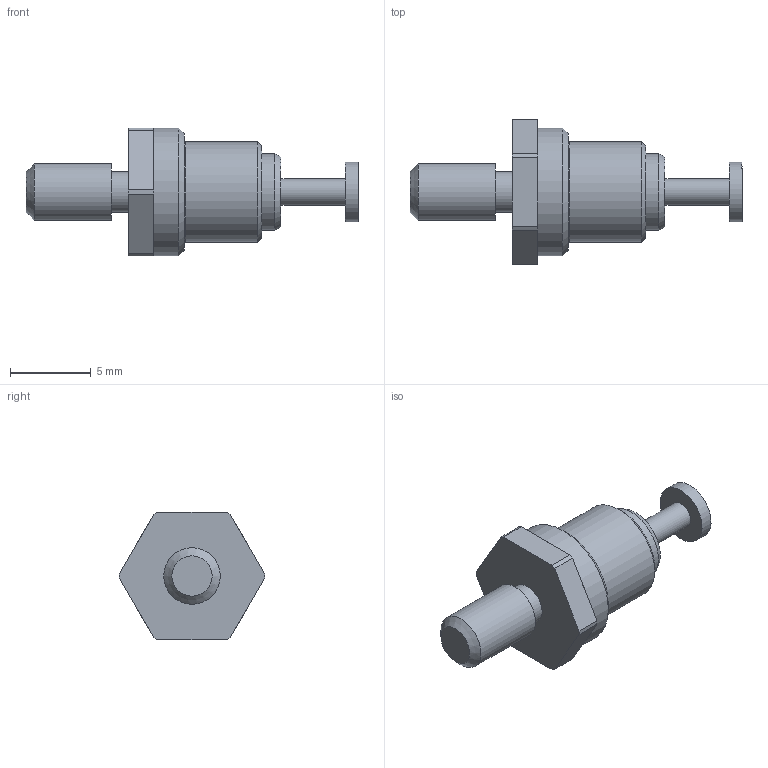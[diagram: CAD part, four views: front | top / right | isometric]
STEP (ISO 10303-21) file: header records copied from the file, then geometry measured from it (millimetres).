
FILE_DESCRIPTION(/* description */ (''),/* implementation_level */ '2;1');
FILE_NAME(/* name */ '\\Snap1\dwgs\Customer 3D Models\570\570-1995-01 Customer model.stp',/* time_stamp */ '2017-01-03T15:35:37+00:00',/* author */ ('paulk'),/* organization */ (''),/* preprocessor_version */ 'ST-DEVELOPER v15.2',/* originating_system */ 'Autodesk Inventor 2014',/* authorisation */ '');
FILE_SCHEMA (('CONFIG_CONTROL_DESIGN'));
Length unit declared in the file: millimetre
Products named in the file (1): 570-1995-01 Customer model
Bounding box: 20.59 x 9 x 7.92 mm (x, y, z)
Volume: 414.6 mm3; surface area: 421.3 mm2
Topology: 1 solids, 1 shells, 38 faces, 80 edges, 49 vertices
Faces by surface type: plane 19, cylinder 13, cone 6
Full cylindrical faces by diameter (mm): 1.651 x1, 2.532 x1, 3.505 x1, 3.683 x1, 4.775 x1, 6.223 x1, 7.925 x1
Entity records: 1022 total; most frequent: DIRECTION 180, CARTESIAN_POINT 153, ORIENTED_EDGE 132, AXIS2_PLACEMENT_3D 75, EDGE_CURVE 66, EDGE_LOOP 56, VERTEX_POINT 48, STYLED_ITEM 39
